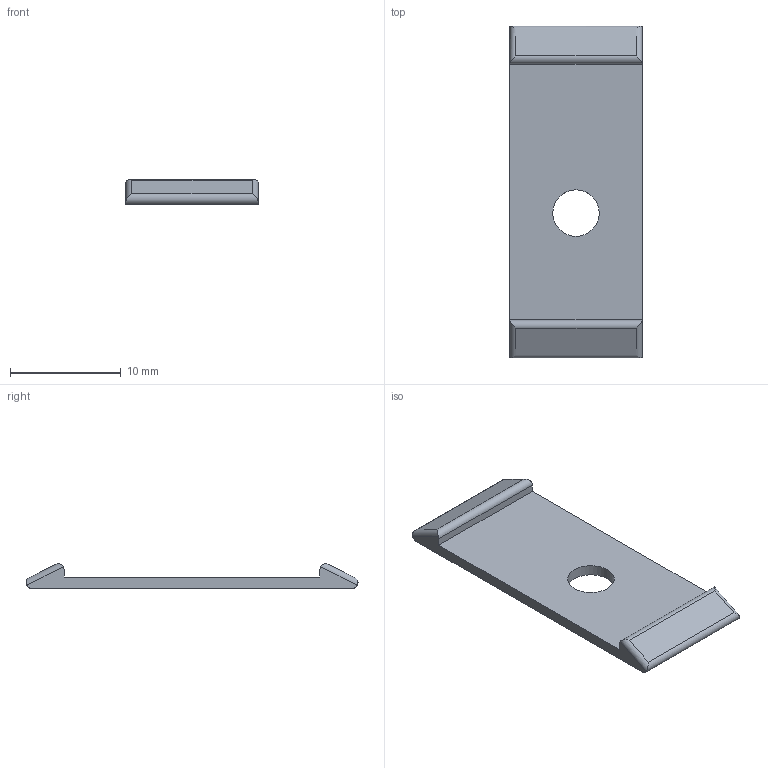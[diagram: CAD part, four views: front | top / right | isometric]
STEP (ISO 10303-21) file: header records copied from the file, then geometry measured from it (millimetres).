
FILE_DESCRIPTION(/* description */ (''),/* implementation_level */ '2;1');
FILE_NAME(/* name */ 'C:/Users/Ryan/Documents/AIO Robotics/CAD Files/BuckleFrontRight.step',/* time_stamp */ '2017-02-04T20:47:08-08:00',/* author */ (''),/* organization */ (''),/* preprocessor_version */ 'ST-DEVELOPER v16.5',/* originating_system */ 'Autodesk Translation Framework v5.2.0.2920',/* authorisation */ '');
FILE_SCHEMA (('AUTOMOTIVE_DESIGN { 1 0 10303 214 3 1 1 }'));
Length unit declared in the file: inch
Products named in the file (1): BuckleFR v12
Bounding box: 11.94 x 29.99 x 2.23 mm (x, y, z)
Volume: 398.1 mm3; surface area: 812.2 mm2
Topology: 1 solids, 1 shells, 17 faces, 45 edges, 30 vertices
Faces by surface type: cylinder 9, plane 8
Full cylindrical faces by diameter (mm): 4.191 x1
Entity records: 560 total; most frequent: DIRECTION 98, CARTESIAN_POINT 92, ORIENTED_EDGE 88, EDGE_CURVE 44, AXIS2_PLACEMENT_3D 36, VERTEX_POINT 30, LINE 26, VECTOR 26
